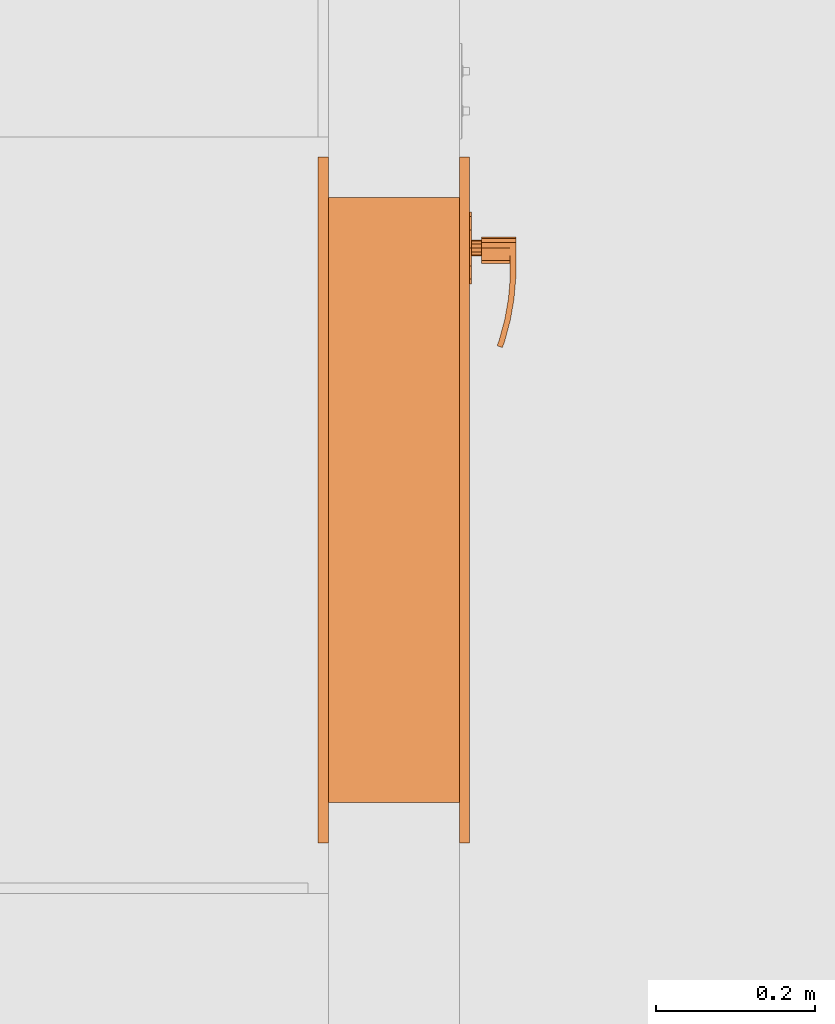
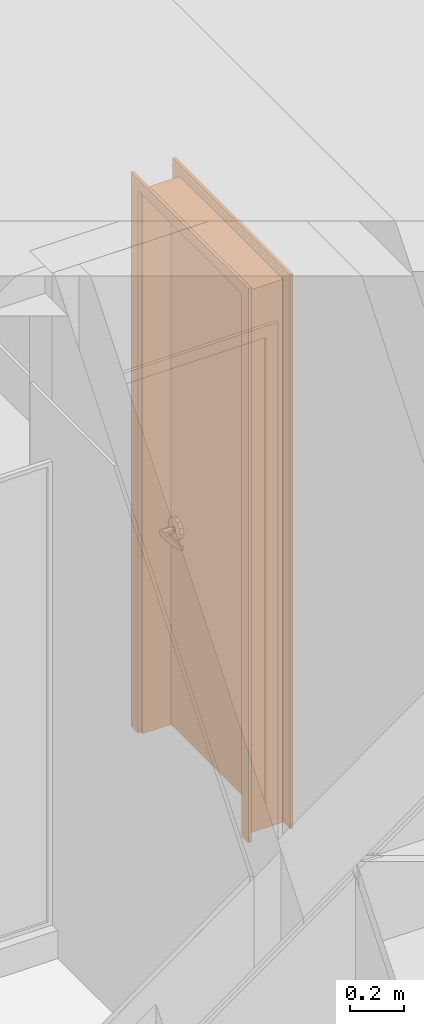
# One storey, part 96 of 103: 1 proxy.
"""IFC2X3 building model written with IfcOpenShell, lengths in inches."""

import ifcopenshell
import ifcopenshell.guid

model = None  # the IFC model being written
_history = None  # IfcOwnerHistory: only IFC2X3 demands one
_inside = {}  # id of a spatial element -> (the spatial element, [elements in it])
_under = {}  # id of a project, library or spatial element -> (it, [spatial elements below it])
_declared = {}  # id of a project -> (the project, [libraries it declares])
_typed = {}  # id of a type object -> (the type object, [elements of that type])
_made_of = {}  # id of a material, layer set ... -> (it, [elements and type objects made of it])


def new_model(schema):
    """Start an empty IFC model of exactly this schema.

    Asked for "IFC4X3", IfcOpenShell would pick the latest addendum, in which some entities
    have other attributes; the version numbers below select the first issue.
    IFC2X3 requires an IfcOwnerHistory on every rooted entity: one is made here for all.
    """
    global model, _history
    if schema == "IFC4X3":
        model = ifcopenshell.file(schema_version=(4, 3, 0, 0))
    else:
        model = ifcopenshell.file(schema=schema)
    _inside.clear()
    _under.clear()
    _declared.clear()
    _typed.clear()
    _made_of.clear()
    _history = None
    if model.schema == "IFC2X3":
        org = make("IfcOrganization", Name="unknown")
        user = make(
            "IfcPersonAndOrganization",
            ThePerson=make("IfcPerson", FamilyName="unknown"),
            TheOrganization=org,
        )
        app = make(
            "IfcApplication",
            ApplicationDeveloper=org,
            Version="unknown",
            ApplicationFullName="unknown",
            ApplicationIdentifier="unknown",
        )
        _history = make(
            "IfcOwnerHistory",
            OwningUser=user,
            OwningApplication=app,
            ChangeAction="ADDED",
            CreationDate=0,
        )
    return model


def make(cls, **values):
    """One entity of the class cls with the attributes given. An attribute that is None is left unset."""
    return model.create_entity(
        cls, **{name: value for name, value in values.items() if value is not None}
    )


def entity(cls, *values):
    """Any entity or typed value of the class cls, its attributes in the order of the schema. None: left unset."""
    e = model.create_entity(cls)
    for i, value in enumerate(values):
        if value is not None:
            e[i] = value
    return e


def rooted(cls, **values):
    """An entity with a GlobalId (a new one), such as an element, a storey or a relation."""
    return make(cls, GlobalId=ifcopenshell.guid.new(), OwnerHistory=_history, **values)


def si_unit(unit_type, name, prefix=None):
    """IfcSIUnit, for example si_unit("LENGTHUNIT", "METRE", prefix="MILLI")."""
    return make("IfcSIUnit", UnitType=unit_type, Prefix=prefix, Name=name)


def converted_unit(unit_type, name, factor, base, dimensions=None, offset=None):
    """IfcConversionBasedUnit, such as the inch: factor (a typed value) times the base unit."""
    return make(
        "IfcConversionBasedUnit"
        if offset is None
        else "IfcConversionBasedUnitWithOffset",
        ConversionOffset=offset,
        Dimensions=None
        if dimensions is None
        else entity("IfcDimensionalExponents", *dimensions),
        UnitType=unit_type,
        Name=name,
        ConversionFactor=make(
            "IfcMeasureWithUnit", ValueComponent=factor, UnitComponent=base
        ),
    )


def derived_unit(unit_type, elements):
    """IfcDerivedUnit: a product of units, each with its exponent."""
    return make(
        "IfcDerivedUnit",
        Elements=[
            make("IfcDerivedUnitElement", Unit=unit, Exponent=power)
            for unit, power in elements
        ],
        UnitType=unit_type,
    )


def money_unit(currency):
    """IfcMonetaryUnit."""
    return make("IfcMonetaryUnit", Currency=currency)


def assignment(units):
    """IfcUnitAssignment: the units of a project."""
    return None if units is None else make("IfcUnitAssignment", Units=units)


def point(xyz):
    """IfcCartesianPoint."""
    return None if xyz is None else make("IfcCartesianPoint", Coordinates=xyz)


def direction(xyz):
    """IfcDirection."""
    return None if xyz is None else make("IfcDirection", DirectionRatios=xyz)


def frame(location, z_axis=None, x_axis=None):
    """IfcAxis2Placement3D, a coordinate frame: its origin and axes. An axis left out is left unset."""
    return make(
        "IfcAxis2Placement3D",
        Location=point(location),
        Axis=direction(z_axis),
        RefDirection=direction(x_axis),
    )


def origin_with_axes():
    """The frame at (0, 0, 0) with the z axis (0, 0, 1) and the x axis (1, 0, 0) written out."""
    return frame((0.0, 0.0, 0.0), z_axis=(0.0, 0.0, 1.0), x_axis=(1.0, 0.0, 0.0))


def place(relative_to, where):
    """IfcLocalPlacement: puts the frame where relative to a parent placement (None: the world)."""
    return make(
        "IfcLocalPlacement", PlacementRelTo=relative_to, RelativePlacement=where
    )


def context(
    kind, dimensions, precision=None, world=None, true_north=None, identifier=None
):
    """IfcGeometricRepresentationContext, for example the 3D "Model" context."""
    return make(
        "IfcGeometricRepresentationContext",
        ContextIdentifier=identifier,
        ContextType=kind,
        CoordinateSpaceDimension=dimensions,
        Precision=precision,
        WorldCoordinateSystem=world,
        TrueNorth=true_north,
    )


def subcontext(parent, identifier, kind, view, scale=None):
    """IfcGeometricRepresentationSubContext, for example "Body" below "Model"."""
    return make(
        "IfcGeometricRepresentationSubContext",
        ContextIdentifier=identifier,
        ContextType=kind,
        ParentContext=parent,
        TargetScale=scale,
        TargetView=view,
    )


def project(units=None, contexts=None):
    """IfcProject with its units and contexts."""
    return rooted(
        "IfcProject",
        Name="project",
        RepresentationContexts=contexts,
        UnitsInContext=assignment(units),
    )


def spatial(cls, under=None, at=None, **own):
    """A site, building, storey or space (cls), placed at a placement, below another one or the project."""
    s = rooted(cls, ObjectPlacement=at, **own)
    if under is not None:
        _under.setdefault(under.id(), (under, []))[1].append(s)
    return s


def faces_of(points, faces, orient=None, outer=None):
    """IfcFace entities. A face is a list of loops; a loop is a list of indices into points, from 0.

    orient and outer hold one flag for each loop. By default every Orientation is true, the
    first loop of a face is its IfcFaceOuterBound and the others are IfcFaceBound.
    """
    made = []
    for i, loops in enumerate(faces):
        bounds = []
        for j, loop in enumerate(loops):
            is_outer = j == 0 if outer is None else outer[i][j]
            bounds.append(
                make(
                    "IfcFaceOuterBound" if is_outer else "IfcFaceBound",
                    Bound=make("IfcPolyLoop", Polygon=[points[k] for k in loop]),
                    Orientation=True if orient is None else orient[i][j],
                )
            )
        made.append(make("IfcFace", Bounds=bounds))
    return made


def open_shell(faces, orient=None, outer=None):
    """The faces of one IfcOpenShell. surface_model builds it on its shared points."""
    return ("IfcOpenShell", faces, orient, outer)


def faceted_brep(points, faces, orient=None, outer=None, voids=None):
    """IfcFacetedBrep: a solid bounded by flat faces; with voids (closed shells), ...WithVoids."""
    shared = [point(p) for p in points]
    hull = make("IfcClosedShell", CfsFaces=faces_of(shared, faces, orient, outer))
    if voids is None:
        return make("IfcFacetedBrep", Outer=hull)
    return make(
        "IfcFacetedBrepWithVoids",
        Outer=hull,
        Voids=[
            make(cls, CfsFaces=faces_of(shared, fs, o, b)) for cls, fs, o, b in voids
        ],
    )


def surface_model(cls, points, shells):
    """IfcFaceBasedSurfaceModel or IfcShellBasedSurfaceModel (cls): surfaces that need not close."""
    shared = [point(p) for p in points]
    made = [make(c, CfsFaces=faces_of(shared, fs, o, b)) for c, fs, o, b in shells]
    if cls == "IfcFaceBasedSurfaceModel":
        return make(cls, FbsmFaces=made)
    return make(cls, SbsmBoundary=made)


def shape(context_of_items, identifier, shape_type, items):
    """IfcShapeRepresentation: the items that make up one representation, for example the "Body"."""
    return make(
        "IfcShapeRepresentation",
        ContextOfItems=context_of_items,
        RepresentationIdentifier=identifier,
        RepresentationType=shape_type,
        Items=items,
    )


def made_of(thing, what):
    """Note that an element or type object is made of a material, layer set ...; save() writes the relation."""
    if what is not None:
        _made_of.setdefault(what.id(), (what, []))[1].append(thing)
    return thing


def type_object(cls, material=None, **own):
    """A type object (cls), such as IfcWallType, which elements share."""
    return made_of(rooted(cls, **own), material)


def element(
    cls,
    number,
    at=None,
    inside=None,
    cuts=None,
    type_object=None,
    material=None,
    context=None,
    identifier="Body",
    shape_type=None,
    held_by="IfcProductDefinitionShape",
    body=None,
    shapes=None,
    **own,
):
    """One element of the class cls, such as IfcWall. Its Tag is "e" and its number.

    at: its placement. inside: the storey or other place that contains it. cuts: it is an
    opening in that element (IfcRelVoidsElement). A single representation is given by context,
    identifier, shape_type and body (its items); several are given by shapes. held_by: the class
    of the entity that holds the representations. save() writes the other relations.
    """
    e = rooted(cls, Tag="e%d" % number, ObjectPlacement=at, **own)
    if body is not None:
        shapes = [shape(context, identifier, shape_type, body)]
    if shapes is not None:
        e.Representation = make(held_by, Representations=shapes)
    if inside is not None:
        _inside.setdefault(inside.id(), (inside, []))[1].append(e)
    if cuts is not None:
        rooted(
            "IfcRelVoidsElement", RelatingBuildingElement=cuts, RelatedOpeningElement=e
        )
    if type_object is not None:
        _typed.setdefault(type_object.id(), (type_object, []))[1].append(e)
    return made_of(e, material)


def aggregate(whole, parts):
    """IfcRelAggregates: a whole, such as a stair, and the parts it consists of."""
    return rooted("IfcRelAggregates", RelatingObject=whole, RelatedObjects=parts)


def save(model, path):
    """Write the relations noted so far, then the file.

    IfcRelAggregates (storeys below a building ...), IfcRelContainedInSpatialStructure (elements
    in a storey), IfcRelDefinesByType, IfcRelAssociatesMaterial and IfcRelDeclares: one each for
    every whole, place, type object, material and project.
    """
    for whole, parts in _under.values():
        aggregate(whole, parts)
    for where, things in _inside.values():
        rooted(
            "IfcRelContainedInSpatialStructure",
            RelatedElements=things,
            RelatingStructure=where,
        )
    for kind, things in _typed.values():
        rooted("IfcRelDefinesByType", RelatedObjects=things, RelatingType=kind)
    for what, things in _made_of.values():
        rooted("IfcRelAssociatesMaterial", RelatedObjects=things, RelatingMaterial=what)
    for by, libraries in _declared.values():
        rooted("IfcRelDeclares", RelatingContext=by, RelatedDefinitions=libraries)
    model.write(path)


model = new_model("IFC2X3")

# Units and contexts
model_context = context("Model", 3, precision=0.00039370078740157, world=origin_with_axes(), true_north=direction((0.0, 1.0)))
plan_context = context("Plan", 3, precision=0.00039370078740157, world=origin_with_axes(), true_north=direction((0.0, 1.0)))
body_context = subcontext(model_context, "Body", "Model", "MODEL_VIEW")
ifc_project = project(units=[converted_unit("LENGTHUNIT", "INCH", entity("IfcPositiveLengthMeasure", 0.0254), si_unit("LENGTHUNIT", "METRE"), dimensions=[1, 0, 0, 0, 0, 0, 0]), converted_unit("AREAUNIT", "SQUARE_FOOT", entity("IfcPositiveLengthMeasure", 0.09290304), si_unit("AREAUNIT", "SQUARE_METRE"), dimensions=[2, 0, 0, 0, 0, 0, 0]), si_unit("PLANEANGLEUNIT", "RADIAN"), si_unit("SOLIDANGLEUNIT", "STERADIAN"), money_unit("USD"), converted_unit("TIMEUNIT", "Year", entity("IfcTimeMeasure", 31557600.0), si_unit("TIMEUNIT", "SECOND"), dimensions=[0, 0, 1, 0, 0, 0, 0]), si_unit("MASSUNIT", "GRAM", prefix="KILO"), si_unit("THERMODYNAMICTEMPERATUREUNIT", "DEGREE_CELSIUS"), si_unit("LUMINOUSINTENSITYUNIT", "LUMEN"), si_unit("ENERGYUNIT", "JOULE", prefix="MEGA"), derived_unit("SPECIFICHEATCAPACITYUNIT", [(si_unit("ENERGYUNIT", "JOULE"), 1), (si_unit("MASSUNIT", "GRAM", prefix="KILO"), -1), (si_unit("THERMODYNAMICTEMPERATUREUNIT", "KELVIN"), -1)])], contexts=[model_context, plan_context])

# Site, building, storey
site_placement = place(None, origin_with_axes())
site = spatial("IfcSite", under=ifc_project, at=site_placement, Name="Site", CompositionType="ELEMENT")
building_placement = place(site_placement, origin_with_axes())
building = spatial("IfcBuilding", under=site, at=building_placement, Name="Building", CompositionType="ELEMENT")
storey_placement = place(building_placement, frame((0.0, 0.0, 127.9999999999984), z_axis=(0.0, 0.0, 1.0), x_axis=(1.0, 0.0, 0.0)))
storey = spatial("IfcBuildingStorey", under=building, at=storey_placement, Name="Second Floor", CompositionType="ELEMENT", Elevation=128.0)

# Proxy
building_element_proxy_type = type_object("IfcBuildingElementProxyType", Name="D1", PredefinedType="NOTDEFINED")
proxy_placement = place(storey_placement, frame((95.50000374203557, 501.4999999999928, 0.0), z_axis=(0.0, 0.0, 1.0), x_axis=(-3.530252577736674e-08, -0.9999999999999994, 0.0)))
element("IfcBuildingElementProxy", 1, at=proxy_placement, inside=storey, type_object=building_element_proxy_type, Name="D-08", context=body_context, shape_type="SurfaceModel", body=[
    faceted_brep([(-2.000000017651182, 0.4999961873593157, 0.0), (-1.765118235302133e-08, 0.4999962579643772, 0.0), (0.0, -3.742035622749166e-06, 0.0), (-1.99999999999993, -3.812640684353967e-06, 0.0), (-2.000000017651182, 0.4999961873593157, 97.99999999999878), (-1.765118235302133e-08, 0.4999962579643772, 95.9999999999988), (0.0, -3.742035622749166e-06, 95.9999999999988), (-1.99999999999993, -3.81264066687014e-06, 97.99999999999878)], [[[0, 1, 2, 3]], [[0, 4, 5, 1]], [[1, 5, 6, 2]], [[3, 2, 6, 7]], [[4, 0, 3, 7]], [[5, 4, 7, 6]]]),
    faceted_brep([(31.9999999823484, 0.4999973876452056, 97.99999999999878), (29.9999999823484, 0.499997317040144, 95.9999999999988), (29.99999999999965, -2.68295985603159e-06, 95.9999999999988), (31.99999999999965, -2.612354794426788e-06, 97.99999999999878), (31.9999999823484, 0.4999973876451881, 0.0), (29.9999999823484, 0.4999973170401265, 0.0), (29.99999999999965, -2.68295985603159e-06, 0.0), (31.99999999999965, -2.612354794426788e-06, 0.0)], [[[0, 1, 2, 3]], [[0, 4, 5, 1]], [[1, 5, 6, 2]], [[3, 2, 6, 7]], [[4, 0, 3, 7]], [[5, 4, 7, 6]]]),
    faceted_brep([(-2.000000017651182, 0.4999961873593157, 97.99999999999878), (-1.765118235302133e-08, 0.4999962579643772, 95.9999999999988), (0.0, -3.742035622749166e-06, 95.9999999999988), (-1.99999999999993, -3.812640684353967e-06, 97.99999999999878), (31.9999999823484, 0.4999973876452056, 97.99999999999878), (29.9999999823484, 0.499997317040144, 95.9999999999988), (29.99999999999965, -2.68295985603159e-06, 95.9999999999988), (31.99999999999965, -2.612354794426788e-06, 97.99999999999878)], [[[0, 1, 2, 3]], [[0, 4, 5, 1]], [[1, 5, 6, 2]], [[3, 2, 6, 7]], [[4, 0, 3, 7]], [[5, 4, 7, 6]]]),
    faceted_brep([(-1.999999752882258, -7.000003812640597, 0.0), (-1.99999977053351, -6.500003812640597, 0.0), (2.294664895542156e-07, -6.500003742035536, 0.0), (2.471177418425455e-07, -7.000003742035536, 0.0), (-1.999999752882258, -7.000003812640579, 97.99999999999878), (-1.99999977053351, -6.500003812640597, 97.99999999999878), (2.294664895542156e-07, -6.500003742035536, 95.9999999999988), (2.471177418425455e-07, -7.000003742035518, 95.9999999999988)], [[[0, 1, 2, 3]], [[4, 5, 1, 0]], [[1, 5, 6, 2]], [[3, 2, 6, 7]], [[0, 3, 7, 4]], [[7, 6, 5, 4]]]),
    faceted_brep([(32.00000024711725, -7.000002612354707, 97.99999999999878), (32.000000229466, -6.500002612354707, 97.99999999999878), (30.00000022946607, -6.500002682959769, 95.9999999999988), (30.00000024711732, -7.000002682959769, 95.9999999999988), (32.00000024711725, -7.000002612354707, 0.0), (32.000000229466, -6.500002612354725, 0.0), (30.00000022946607, -6.500002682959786, 0.0), (30.00000024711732, -7.000002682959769, 0.0)], [[[0, 1, 2, 3]], [[4, 5, 1, 0]], [[1, 5, 6, 2]], [[3, 2, 6, 7]], [[0, 3, 7, 4]], [[7, 6, 5, 4]]]),
    faceted_brep([(-1.999999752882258, -7.000003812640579, 97.99999999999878), (-1.99999977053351, -6.500003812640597, 97.99999999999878), (2.294664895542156e-07, -6.500003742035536, 95.9999999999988), (2.471177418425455e-07, -7.000003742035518, 95.9999999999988), (32.00000024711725, -7.000002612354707, 97.99999999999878), (32.000000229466, -6.500002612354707, 97.99999999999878), (30.00000022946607, -6.500002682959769, 95.9999999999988), (30.00000024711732, -7.000002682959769, 95.9999999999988)], [[[0, 1, 2, 3]], [[4, 5, 1, 0]], [[1, 5, 6, 2]], [[3, 2, 6, 7]], [[0, 3, 7, 4]], [[7, 6, 5, 4]]]),
    faceted_brep([(0.0, -3.742035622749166e-06, 0.0), (0.5000000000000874, -3.724384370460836e-06, 0.0), (0.500000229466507, -6.500003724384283, 0.0), (2.294664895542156e-07, -6.500003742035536, 0.0), (0.0, -3.742035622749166e-06, 95.49999999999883), (0.5000000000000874, -3.724384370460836e-06, 95.49999999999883), (0.500000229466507, -6.500003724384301, 95.49999999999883), (2.294664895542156e-07, -6.500003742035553, 95.49999999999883)], [[[0, 1, 2, 3]], [[0, 4, 5, 1]], [[1, 5, 6, 2]], [[3, 2, 6, 7]], [[4, 0, 3, 7]], [[5, 4, 7, 6]]]),
    faceted_brep([(29.99999999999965, -2.68295985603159e-06, 0.0), (29.99999999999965, -2.68295985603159e-06, 95.49999999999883), (30.00000022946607, -6.500002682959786, 95.49999999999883), (30.00000022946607, -6.500002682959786, 0.0), (29.49999999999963, -2.70061110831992e-06, 0.0), (29.49999999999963, -2.70061110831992e-06, 95.49999999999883), (29.50000022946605, -6.500002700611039, 95.49999999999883), (29.50000022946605, -6.500002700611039, 0.0)], [[[0, 1, 2, 3]], [[0, 4, 5, 1]], [[1, 5, 6, 2]], [[3, 2, 6, 7]], [[4, 0, 3, 7]], [[5, 4, 7, 6]]]),
    faceted_brep([(0.0, -3.742035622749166e-06, 95.9999999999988), (0.0, -3.742035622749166e-06, 95.49999999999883), (2.294664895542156e-07, -6.500003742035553, 95.49999999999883), (2.294664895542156e-07, -6.500003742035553, 95.9999999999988), (29.99999999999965, -2.68295985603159e-06, 95.9999999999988), (29.99999999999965, -2.68295985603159e-06, 95.49999999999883), (29.49999999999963, -2.70061110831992e-06, 95.49999999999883), (0.5000000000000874, -3.724384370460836e-06, 95.49999999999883), (0.500000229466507, -6.500003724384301, 95.49999999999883), (29.50000022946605, -6.500002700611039, 95.49999999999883), (30.00000022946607, -6.500002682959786, 95.49999999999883), (30.00000022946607, -6.500002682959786, 95.9999999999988)], [[[0, 1, 2, 3]], [[0, 4, 5, 6, 7, 1]], [[1, 7, 8, 2]], [[3, 2, 8, 9, 10, 11]], [[4, 0, 3, 11]], [[5, 4, 11, 10]], [[6, 5, 10, 9]], [[7, 6, 9, 8]]]),
    surface_model("IfcShellBasedSurfaceModel", [(4.051344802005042, -2.34055478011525, 36.89566929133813), (4.29133866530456, -2.340554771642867, 35.99999999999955), (4.291338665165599, -2.336617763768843, 35.99999999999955), (4.05134480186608, -2.336617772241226, 36.89566929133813), (3.395669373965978, -2.340554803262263, 37.55134471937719), (2.500000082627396, -2.340554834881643, 37.79133858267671), (1.604330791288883, -2.340554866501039, 37.55134471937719), (0.9486553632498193, -2.340554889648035, 36.89566929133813), (0.708661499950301, -2.340554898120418, 35.99999999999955), (0.9486553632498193, -2.340554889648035, 35.104330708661), (1.604330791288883, -2.340554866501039, 34.44865528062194), (2.500000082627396, -2.340554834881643, 34.20866141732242), (3.395669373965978, -2.340554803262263, 34.44865528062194), (4.051344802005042, -2.34055478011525, 35.104330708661), (4.05134480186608, -2.336617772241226, 35.104330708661), (4.291338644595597, -1.753940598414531, 35.99999999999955), (4.051344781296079, -1.753940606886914, 36.89566929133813), (3.395669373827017, -2.33661779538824, 37.55134471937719), (2.500000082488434, -2.336617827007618, 37.79133858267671), (1.604330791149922, -2.336617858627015, 37.55134471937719), (0.9486553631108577, -2.336617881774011, 36.89566929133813), (0.7086614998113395, -2.336617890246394, 35.99999999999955), (0.9486553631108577, -2.336617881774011, 35.104330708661), (1.604330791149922, -2.336617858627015, 34.44865528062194), (2.500000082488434, -2.336617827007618, 34.20866141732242), (3.395669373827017, -2.33661779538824, 34.44865528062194), (4.051344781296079, -1.753940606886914, 35.104330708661), (4.291338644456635, -1.750003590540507, 35.99999999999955), (4.051344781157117, -1.75000359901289, 36.89566929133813), (3.395669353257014, -1.753940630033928, 37.55134471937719), (2.500000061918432, -1.753940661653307, 37.79133858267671), (1.604330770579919, -1.753940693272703, 37.55134471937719), (0.9486553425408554, -1.753940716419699, 36.89566929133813), (0.7086614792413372, -1.753940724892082, 35.99999999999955), (0.9486553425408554, -1.753940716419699, 35.104330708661), (1.604330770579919, -1.753940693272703, 34.44865528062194), (2.500000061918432, -1.753940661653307, 34.20866141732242), (3.395669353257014, -1.753940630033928, 34.44865528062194), (4.051344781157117, -1.75000359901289, 35.104330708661), (3.395669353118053, -1.750003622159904, 37.55134471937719), (2.50000006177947, -1.750003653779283, 37.79133858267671), (1.604330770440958, -1.750003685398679, 37.55134471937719), (0.9486553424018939, -1.750003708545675, 36.89566929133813), (0.7086614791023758, -1.750003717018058, 35.99999999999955), (0.9486553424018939, -1.750003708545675, 35.104330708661), (1.604330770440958, -1.750003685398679, 34.44865528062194), (2.50000006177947, -1.750003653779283, 34.20866141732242), (3.395669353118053, -1.750003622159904, 34.44865528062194)], [open_shell([[[0, 1, 2, 3]], [[1, 0, 4, 5, 6, 7, 8, 9, 10, 11, 12, 13]], [[1, 13, 14, 2]], [[3, 2, 15, 16]], [[4, 0, 3, 17]], [[5, 4, 17, 18]], [[6, 5, 18, 19]], [[7, 6, 19, 20]], [[8, 7, 20, 21]], [[9, 8, 21, 22]], [[10, 9, 22, 23]], [[11, 10, 23, 24]], [[12, 11, 24, 25]], [[13, 12, 25, 14]], [[2, 14, 26, 15]], [[16, 15, 27, 28]], [[17, 3, 16, 29]], [[18, 17, 29, 30]], [[19, 18, 30, 31]], [[20, 19, 31, 32]], [[21, 20, 32, 33]], [[22, 21, 33, 34]], [[23, 22, 34, 35]], [[24, 23, 35, 36]], [[25, 24, 36, 37]], [[14, 25, 37, 26]], [[15, 26, 38, 27]], [[29, 16, 28, 39]], [[30, 29, 39, 40]], [[31, 30, 40, 41]], [[32, 31, 41, 42]], [[33, 32, 42, 43]], [[34, 33, 43, 44]], [[35, 34, 44, 45]], [[36, 35, 45, 46]], [[37, 36, 46, 47]], [[26, 37, 47, 38]]])]),
    faceted_brep([(2.30314968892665, -2.340554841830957, 35.65904511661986), (2.159045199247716, -2.340554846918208, 35.80314960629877), (2.106299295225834, -2.340554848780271, 35.99999999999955), (2.159045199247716, -2.340554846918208, 36.19685039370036), (2.30314968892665, -2.340554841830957, 36.34095488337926), (2.500000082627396, -2.340554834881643, 36.39370078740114), (2.696850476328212, -2.340554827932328, 36.34095488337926), (2.840954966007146, -2.340554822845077, 36.19685039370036), (2.893700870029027, -2.340554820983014, 35.99999999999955), (2.840954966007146, -2.340554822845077, 35.80314960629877), (2.696850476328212, -2.340554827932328, 35.65904511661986), (2.500000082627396, -2.340554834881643, 35.60629921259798), (2.303149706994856, -2.852365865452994, 35.65904511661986), (2.159045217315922, -2.852365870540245, 35.80314960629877), (2.106299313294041, -2.852365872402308, 35.99999999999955), (2.159045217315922, -2.852365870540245, 36.19685039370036), (2.303149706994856, -2.852365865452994, 36.34095488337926), (2.500000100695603, -2.85236585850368, 36.39370078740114), (2.696850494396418, -2.852365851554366, 36.34095488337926), (2.840954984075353, -2.852365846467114, 36.19685039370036), (2.893700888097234, -2.852365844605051, 35.99999999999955), (2.840954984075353, -2.852365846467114, 35.80314960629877), (2.696850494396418, -2.852365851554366, 35.65904511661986), (2.500000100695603, -2.85236585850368, 35.60629921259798)], [[[0, 1, 2, 3, 4, 5, 6, 7, 8, 9, 10, 11]], [[1, 0, 12, 13]], [[2, 1, 13, 14]], [[3, 2, 14, 15]], [[4, 3, 15, 16]], [[5, 4, 16, 17]], [[6, 5, 17, 18]], [[7, 6, 18, 19]], [[8, 7, 19, 20]], [[9, 8, 20, 21]], [[10, 9, 21, 22]], [[11, 10, 22, 23]], [[0, 11, 23, 12]], [[12, 23, 22, 21, 20, 19, 18, 17, 16, 15, 14, 13]]]),
    faceted_brep([(2.500000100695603, -2.85236585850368, 36.55118110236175), (2.224409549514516, -2.85236586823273, 36.47733683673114), (2.224409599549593, -4.269688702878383, 36.47733683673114), (2.500000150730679, -4.269688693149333, 36.55118110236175), (2.893700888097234, -2.852365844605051, 36.47244094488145), (3.126478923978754, -2.85236583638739, 36.35358914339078), (3.262948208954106, -2.852365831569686, 36.13068221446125), (3.262948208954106, -2.852365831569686, 35.86931778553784), (3.126478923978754, -2.85236583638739, 35.64641085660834), (2.893700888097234, -2.852365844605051, 35.52755905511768), (2.500000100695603, -2.85236585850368, 35.44881889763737), (2.224409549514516, -2.85236586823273, 35.52266316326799), (2.022663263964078, -2.852365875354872, 35.72440944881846), (1.94881899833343, -2.852365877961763, 35.99999999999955), (2.022663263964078, -2.852365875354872, 36.27559055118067), (2.022663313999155, -4.269688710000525, 36.27559055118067), (1.948819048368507, -4.269688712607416, 35.99999999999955), (2.022663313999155, -4.269688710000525, 35.72440944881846), (2.224409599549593, -4.269688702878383, 35.52266316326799), (2.500000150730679, -4.269688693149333, 35.44881889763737), (2.89370093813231, -4.269688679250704, 35.52755905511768), (3.126478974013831, -4.269688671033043, 35.64641085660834), (3.262948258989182, -4.269688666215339, 35.86931778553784), (3.262948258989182, -4.269688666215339, 36.13068221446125), (3.126478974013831, -4.269688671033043, 36.35358914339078), (2.89370093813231, -4.269688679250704, 36.47244094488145)], [[[0, 1, 2, 3]], [[0, 4, 5, 6, 7, 8, 9, 10, 11, 12, 13, 14, 1]], [[1, 14, 15, 2]], [[3, 2, 15, 16, 17, 18, 19, 20, 21, 22, 23, 24, 25]], [[4, 0, 3, 25]], [[5, 4, 25, 24]], [[6, 5, 24, 23]], [[7, 6, 23, 22]], [[8, 7, 22, 21]], [[9, 8, 21, 20]], [[10, 9, 20, 19]], [[11, 10, 19, 18]], [[12, 11, 18, 17]], [[13, 12, 17, 16]], [[14, 13, 16, 15]]]),
    surface_model("IfcShellBasedSurfaceModel", [(2.500000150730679, -4.269688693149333, 36.55118110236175), (2.224409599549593, -4.269688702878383, 36.47733683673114), (2.224409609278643, -4.545279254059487, 36.47733683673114), (2.50000016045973, -4.545279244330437, 36.55118110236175), (3.484252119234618, -4.269688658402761, 36.55118110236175), (3.484252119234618, -4.269688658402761, 35.44881889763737), (2.500000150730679, -4.269688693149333, 35.44881889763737), (2.224409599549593, -4.269688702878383, 35.52266316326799), (2.022663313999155, -4.269688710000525, 35.72440944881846), (1.948819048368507, -4.269688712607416, 35.99999999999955), (2.022663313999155, -4.269688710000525, 36.27559055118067), (2.022663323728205, -4.545279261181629, 36.27559055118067), (1.948819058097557, -4.54527926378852, 35.99999999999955), (2.022663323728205, -4.545279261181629, 35.72440944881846), (2.224409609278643, -4.545279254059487, 35.52266316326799), (2.50000016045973, -4.545279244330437, 35.44881889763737), (3.484252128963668, -4.545279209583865, 35.44881889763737), (3.484252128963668, -4.545279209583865, 36.55118110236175)], [open_shell([[[0, 1, 2, 3]], [[0, 4, 5, 6, 7, 8, 9, 10, 1]], [[1, 10, 11, 2]], [[3, 2, 11, 12, 13, 14, 15, 16, 17]], [[4, 0, 3, 17]], [[6, 5, 16, 15]], [[7, 6, 15, 14]], [[8, 7, 14, 13]], [[9, 8, 13, 12]], [[10, 9, 12, 11]]])]),
    surface_model("IfcShellBasedSurfaceModel", [(3.484252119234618, -4.269688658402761, 35.44881889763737), (3.999932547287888, -4.269688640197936, 35.47974008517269), (4.0119651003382, -4.545279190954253, 35.47974008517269), (3.484252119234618, -4.269688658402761, 36.55118110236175), (3.999932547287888, -4.269688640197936, 36.52025991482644), (5.063374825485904, -4.453292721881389, 35.54158246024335), (3.484252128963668, -4.545279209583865, 35.44881889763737), (3.484252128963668, -4.545279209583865, 36.55118110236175), (5.027368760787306, -4.179799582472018, 36.45841753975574), (5.027368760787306, -4.179799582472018, 35.54158246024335), (5.063374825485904, -4.453292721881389, 36.45841753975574), (4.0119651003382, -4.545279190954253, 36.52025991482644), (6.043060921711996, -4.000705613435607, 36.39657516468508), (6.043060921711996, -4.000705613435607, 35.60342483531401), (6.10276647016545, -4.270019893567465, 35.60342483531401), (6.10276647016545, -4.270019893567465, 36.39657516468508), (7.039278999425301, -3.733769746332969, 36.33473278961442), (7.039278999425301, -3.733769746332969, 35.66526721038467), (7.122229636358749, -3.99685552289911, 35.66526721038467), (7.122229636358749, -3.99685552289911, 36.33473278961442), (7.34923469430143, -3.620955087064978, 36.3149606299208), (7.34923469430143, -3.620955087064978, 35.68503937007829), (7.439417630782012, -3.881408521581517, 35.68503937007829), (7.439417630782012, -3.881408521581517, 36.3149606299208)], [open_shell([[[0, 1, 2]], [[0, 3, 4, 1]], [[1, 5, 2]], [[0, 2, 6]], [[4, 3, 7]], [[1, 4, 8, 9]], [[1, 9, 5]], [[2, 5, 10, 11]], [[6, 2, 11, 7]], [[4, 7, 11]], [[8, 4, 11]], [[9, 8, 12, 13]], [[9, 14, 5]], [[5, 14, 15, 10]], [[8, 11, 10]], [[12, 8, 10]], [[13, 12, 16, 17]], [[9, 13, 14]], [[14, 18, 19, 15]], [[12, 10, 15]], [[16, 12, 15]], [[17, 16, 20, 21]], [[13, 17, 18]], [[13, 18, 14]], [[18, 22, 23, 19]], [[16, 15, 19]], [[20, 16, 19]], [[21, 20, 23, 22]], [[17, 21, 22]], [[17, 22, 18]], [[20, 19, 23]]])]),
    surface_model("IfcShellBasedSurfaceModel", [(4.051344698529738, 0.5905475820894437, 36.89566929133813), (4.0513446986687, 0.5866105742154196, 36.89566929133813), (4.291338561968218, 0.5866105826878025, 35.99999999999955), (4.291338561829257, 0.5905475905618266, 35.99999999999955), (3.395669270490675, 0.59054755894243, 37.55134471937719), (3.395669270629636, 0.586610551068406, 37.55134471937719), (4.051344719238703, 0.003933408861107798, 36.89566929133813), (4.291338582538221, 0.003933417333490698, 35.99999999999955), (4.0513446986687, 0.5866105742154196, 35.104330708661), (4.051344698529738, 0.5905475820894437, 35.104330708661), (3.395669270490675, 0.59054755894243, 34.44865528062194), (2.499999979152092, 0.590547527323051, 34.20866141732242), (1.60433068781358, 0.5905474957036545, 34.44865528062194), (0.9486552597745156, 0.5905474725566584, 35.104330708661), (0.7086613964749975, 0.5905474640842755, 35.99999999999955), (0.9486552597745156, 0.5905474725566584, 36.89566929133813), (1.60433068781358, 0.5905474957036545, 37.55134471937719), (2.499999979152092, 0.590547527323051, 37.79133858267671), (2.499999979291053, 0.586610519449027, 37.79133858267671), (3.395669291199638, 0.003933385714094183, 37.55134471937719), (4.051344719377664, -3.599012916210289e-06, 36.89566929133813), (4.291338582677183, -3.590540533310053e-06, 35.99999999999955), (4.051344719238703, 0.003933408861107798, 35.104330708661), (3.395669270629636, 0.586610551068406, 34.44865528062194), (2.499999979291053, 0.586610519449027, 34.20866141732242), (1.604330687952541, 0.5866104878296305, 34.44865528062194), (0.9486552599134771, 0.5866104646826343, 35.104330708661), (0.7086613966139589, 0.5866104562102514, 35.99999999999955), (0.9486552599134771, 0.5866104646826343, 36.89566929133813), (1.604330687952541, 0.5866104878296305, 37.55134471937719), (2.499999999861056, 0.003933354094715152, 37.79133858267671), (3.3956692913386, -3.622159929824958e-06, 37.55134471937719), (4.051344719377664, -3.599012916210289e-06, 35.104330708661), (3.395669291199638, 0.003933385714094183, 34.44865528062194), (2.499999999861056, 0.003933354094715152, 34.20866141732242), (1.604330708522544, 0.003933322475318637, 34.44865528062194), (0.9486552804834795, 0.003933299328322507, 35.104330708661), (0.7086614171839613, 0.003933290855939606, 35.99999999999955), (0.9486552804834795, 0.003933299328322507, 36.89566929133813), (1.604330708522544, 0.003933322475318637, 37.55134471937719), (2.500000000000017, -3.653779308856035e-06, 37.79133858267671), (3.3956692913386, -3.622159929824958e-06, 34.44865528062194), (2.500000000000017, -3.653779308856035e-06, 34.20866141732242), (1.604330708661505, -3.685398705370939e-06, 34.44865528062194), (0.948655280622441, -3.708545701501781e-06, 35.104330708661), (0.7086614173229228, -3.717018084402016e-06, 35.99999999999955), (0.948655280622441, -3.708545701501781e-06, 36.89566929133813), (1.604330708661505, -3.685398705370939e-06, 37.55134471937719)], [open_shell([[[0, 1, 2, 3]], [[4, 5, 1, 0]], [[1, 6, 7, 2]], [[3, 2, 8, 9]], [[3, 9, 10, 11, 12, 13, 14, 15, 16, 17, 4, 0]], [[17, 18, 5, 4]], [[5, 19, 6, 1]], [[6, 20, 21, 7]], [[2, 7, 22, 8]], [[9, 8, 23, 10]], [[10, 23, 24, 11]], [[11, 24, 25, 12]], [[12, 25, 26, 13]], [[13, 26, 27, 14]], [[14, 27, 28, 15]], [[15, 28, 29, 16]], [[16, 29, 18, 17]], [[18, 30, 19, 5]], [[19, 31, 20, 6]], [[7, 21, 32, 22]], [[8, 22, 33, 23]], [[23, 33, 34, 24]], [[24, 34, 35, 25]], [[25, 35, 36, 26]], [[26, 36, 37, 27]], [[27, 37, 38, 28]], [[28, 38, 39, 29]], [[29, 39, 30, 18]], [[30, 40, 31, 19]], [[22, 32, 41, 33]], [[33, 41, 42, 34]], [[34, 42, 43, 35]], [[35, 43, 44, 36]], [[36, 44, 45, 37]], [[37, 45, 46, 38]], [[38, 46, 47, 39]], [[39, 47, 40, 30]]])]),
    faceted_brep([(2.303149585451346, 0.5905475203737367, 35.65904511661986), (2.499999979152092, 0.590547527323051, 35.60629921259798), (2.696850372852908, 0.5905475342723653, 35.65904511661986), (2.840954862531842, 0.590547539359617, 35.80314960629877), (2.893700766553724, 0.5905475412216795, 35.99999999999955), (2.840954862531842, 0.590547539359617, 36.19685039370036), (2.696850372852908, 0.5905475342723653, 36.34095488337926), (2.499999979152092, 0.590547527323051, 36.39370078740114), (2.303149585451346, 0.5905475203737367, 36.34095488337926), (2.159045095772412, 0.5905475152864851, 36.19685039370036), (2.10629919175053, 0.5905475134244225, 35.99999999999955), (2.159045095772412, 0.5905475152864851, 35.80314960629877), (2.30314956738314, 1.102358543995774, 35.65904511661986), (2.499999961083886, 1.102358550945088, 35.60629921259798), (2.696850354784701, 1.102358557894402, 35.65904511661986), (2.840954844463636, 1.102358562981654, 35.80314960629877), (2.893700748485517, 1.102358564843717, 35.99999999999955), (2.840954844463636, 1.102358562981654, 36.19685039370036), (2.696850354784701, 1.102358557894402, 36.34095488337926), (2.499999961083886, 1.102358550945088, 36.39370078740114), (2.30314956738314, 1.102358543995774, 36.34095488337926), (2.159045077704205, 1.102358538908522, 36.19685039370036), (2.106299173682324, 1.102358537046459, 35.99999999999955), (2.159045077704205, 1.102358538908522, 35.80314960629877)], [[[0, 1, 2, 3, 4, 5, 6, 7, 8, 9, 10, 11]], [[0, 12, 13, 1]], [[1, 13, 14, 2]], [[2, 14, 15, 3]], [[3, 15, 16, 4]], [[4, 16, 17, 5]], [[5, 17, 18, 6]], [[6, 18, 19, 7]], [[7, 19, 20, 8]], [[8, 20, 21, 9]], [[9, 21, 22, 10]], [[10, 22, 23, 11]], [[11, 23, 12, 0]], [[12, 23, 22, 21, 20, 19, 18, 17, 16, 15, 14, 13]]]),
    faceted_brep([(2.499999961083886, 1.102358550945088, 36.55118110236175), (2.499999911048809, 2.519681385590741, 36.55118110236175), (2.224409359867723, 2.519681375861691, 36.47733683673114), (2.224409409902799, 1.102358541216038, 36.47733683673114), (2.893700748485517, 1.102358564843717, 36.47244094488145), (2.893700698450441, 2.51968139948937, 36.47244094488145), (3.126478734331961, 2.519681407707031, 36.35358914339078), (3.262948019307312, 2.519681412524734, 36.13068221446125), (3.262948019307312, 2.519681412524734, 35.86931778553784), (3.126478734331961, 2.519681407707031, 35.64641085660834), (2.893700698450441, 2.51968139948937, 35.52755905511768), (2.499999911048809, 2.519681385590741, 35.44881889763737), (2.224409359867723, 2.519681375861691, 35.52266316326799), (2.022663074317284, 2.519681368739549, 35.72440944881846), (1.948818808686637, 2.519681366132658, 35.99999999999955), (2.022663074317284, 2.519681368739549, 36.27559055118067), (2.022663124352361, 1.102358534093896, 36.27559055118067), (1.948818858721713, 1.102358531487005, 35.99999999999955), (2.022663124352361, 1.102358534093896, 35.72440944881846), (2.224409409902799, 1.102358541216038, 35.52266316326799), (2.499999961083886, 1.102358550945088, 35.44881889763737), (2.893700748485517, 1.102358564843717, 35.52755905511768), (3.126478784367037, 1.102358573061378, 35.64641085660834), (3.262948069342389, 1.102358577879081, 35.86931778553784), (3.262948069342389, 1.102358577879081, 36.13068221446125), (3.126478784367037, 1.102358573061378, 36.35358914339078)], [[[0, 1, 2, 3]], [[4, 5, 1, 0]], [[1, 5, 6, 7, 8, 9, 10, 11, 12, 13, 14, 15, 2]], [[3, 2, 15, 16]], [[0, 3, 16, 17, 18, 19, 20, 21, 22, 23, 24, 25, 4]], [[25, 6, 5, 4]], [[24, 7, 6, 25]], [[23, 8, 7, 24]], [[22, 9, 8, 23]], [[21, 10, 9, 22]], [[20, 11, 10, 21]], [[19, 12, 11, 20]], [[18, 13, 12, 19]], [[17, 14, 13, 18]], [[16, 15, 14, 17]]]),
    surface_model("IfcShellBasedSurfaceModel", [(2.499999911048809, 2.519681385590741, 36.55118110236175), (2.499999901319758, 2.795271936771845, 36.55118110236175), (2.224409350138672, 2.795271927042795, 36.47733683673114), (2.224409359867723, 2.519681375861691, 36.47733683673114), (3.484251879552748, 2.519681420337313, 36.55118110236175), (3.484251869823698, 2.795271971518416, 36.55118110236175), (3.484251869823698, 2.795271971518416, 35.44881889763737), (2.499999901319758, 2.795271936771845, 35.44881889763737), (2.224409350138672, 2.795271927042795, 35.52266316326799), (2.022663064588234, 2.795271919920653, 35.72440944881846), (1.948818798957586, 2.795271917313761, 35.99999999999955), (2.022663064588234, 2.795271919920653, 36.27559055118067), (2.022663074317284, 2.519681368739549, 36.27559055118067), (1.948818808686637, 2.519681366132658, 35.99999999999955), (2.022663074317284, 2.519681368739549, 35.72440944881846), (2.224409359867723, 2.519681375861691, 35.52266316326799), (2.499999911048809, 2.519681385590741, 35.44881889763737), (3.484251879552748, 2.519681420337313, 35.44881889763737)], [open_shell([[[0, 1, 2, 3]], [[4, 5, 1, 0]], [[1, 5, 6, 7, 8, 9, 10, 11, 2]], [[3, 2, 11, 12]], [[0, 3, 12, 13, 14, 15, 16, 17, 4]], [[16, 7, 6, 17]], [[15, 8, 7, 16]], [[14, 9, 8, 15]], [[13, 10, 9, 14]], [[12, 11, 10, 13]]])]),
    surface_model("IfcShellBasedSurfaceModel", [(3.484251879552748, 2.519681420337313, 35.44881889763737), (4.011964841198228, 2.795271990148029, 35.47974008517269), (3.999932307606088, 2.519681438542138, 35.47974008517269), (3.484251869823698, 2.795271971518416, 35.44881889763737), (5.063374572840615, 2.70328559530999, 35.54158246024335), (3.999932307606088, 2.519681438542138, 36.52025991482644), (3.484251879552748, 2.519681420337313, 36.55118110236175), (3.484251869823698, 2.795271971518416, 36.55118110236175), (4.011964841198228, 2.795271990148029, 36.52025991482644), (5.063374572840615, 2.70328559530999, 36.45841753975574), (5.027368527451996, 2.429792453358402, 35.54158246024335), (5.027368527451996, 2.429792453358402, 36.45841753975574), (6.102766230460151, 2.520012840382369, 36.39657516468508), (6.102766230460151, 2.520012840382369, 35.60342483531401), (6.043060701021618, 2.250698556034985, 35.60342483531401), (6.043060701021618, 2.250698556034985, 36.39657516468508), (7.122229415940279, 2.246848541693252, 36.33473278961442), (7.122229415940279, 2.246848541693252, 35.66526721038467), (7.03927879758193, 1.983762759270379, 35.66526721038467), (7.03927879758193, 1.983762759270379, 36.33473278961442), (7.439417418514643, 2.131401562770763, 36.3149606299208), (7.439417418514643, 2.131401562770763, 35.68503937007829), (7.34923450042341, 1.870948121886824, 35.68503937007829), (7.34923450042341, 1.870948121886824, 36.3149606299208)], [open_shell([[[0, 1, 2]], [[0, 3, 1]], [[2, 1, 4]], [[0, 2, 5, 6]], [[3, 7, 8, 1]], [[1, 8, 9, 4]], [[2, 4, 10]], [[2, 10, 11, 5]], [[5, 7, 6]], [[5, 8, 7]], [[11, 9, 8]], [[4, 9, 12, 13]], [[10, 4, 13]], [[10, 14, 15, 11]], [[11, 8, 5]], [[15, 9, 11]], [[15, 12, 9]], [[13, 12, 16, 17]], [[10, 13, 14]], [[14, 18, 19, 15]], [[19, 12, 15]], [[19, 16, 12]], [[17, 16, 20, 21]], [[14, 13, 17]], [[14, 17, 18]], [[18, 22, 23, 19]], [[23, 16, 19]], [[23, 20, 16]], [[22, 21, 20, 23]], [[18, 17, 21]], [[18, 21, 22]]])]),
    faceted_brep([(0.5393701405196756, -1.750003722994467, 0.03937007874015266), (29.46062998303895, -1.750002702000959, 0.03937007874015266), (29.46062998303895, -1.750002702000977, 95.46062992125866), (0.5393701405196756, -1.750003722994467, 95.46062992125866), (29.4606299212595, -2.70200098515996e-06, 0.03937007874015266), (0.5393700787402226, -3.722994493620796e-06, 0.03937007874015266), (29.4606299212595, -2.70200098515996e-06, 95.46062992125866), (0.5393700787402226, -3.722994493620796e-06, 95.46062992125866)], [[[0, 1, 2, 3]], [[4, 1, 0, 5]], [[1, 4, 6, 2]], [[2, 6, 7, 3]], [[5, 0, 3, 7]], [[4, 5, 7, 6]]]),
    faceted_brep([(29.49999999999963, -2.70061110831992e-06, 0.0), (29.50000006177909, -1.750002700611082, 0.0), (0.5000000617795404, -1.750003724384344, 0.0), (0.5000000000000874, -3.724384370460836e-06, 0.0), (29.49999999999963, -2.70061110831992e-06, 95.49999999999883), (29.50000006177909, -1.7500027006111, 95.49999999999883), (0.5000000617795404, -1.750003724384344, 95.49999999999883), (29.46062998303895, -1.750002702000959, 0.03937007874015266), (0.5393701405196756, -1.750003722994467, 0.03937007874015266), (0.5393701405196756, -1.750003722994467, 95.46062992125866), (29.46062998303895, -1.750002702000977, 95.46062992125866), (0.5000000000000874, -3.724384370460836e-06, 95.49999999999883), (29.4606299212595, -2.70200098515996e-06, 0.03937007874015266), (29.4606299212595, -2.70200098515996e-06, 95.46062992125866), (0.5393700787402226, -3.722994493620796e-06, 95.46062992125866), (0.5393700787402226, -3.722994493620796e-06, 0.03937007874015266)], [[[0, 1, 2, 3]], [[4, 5, 1, 0]], [[1, 5, 6, 2], [7, 8, 9, 10]], [[3, 2, 6, 11]], [[0, 3, 11, 4], [12, 13, 14, 15]], [[11, 6, 5, 4]], [[15, 8, 7, 12]], [[14, 9, 8, 15]], [[13, 10, 9, 14]], [[12, 7, 10, 13]]]),
])

save(model, "model.ifc")
